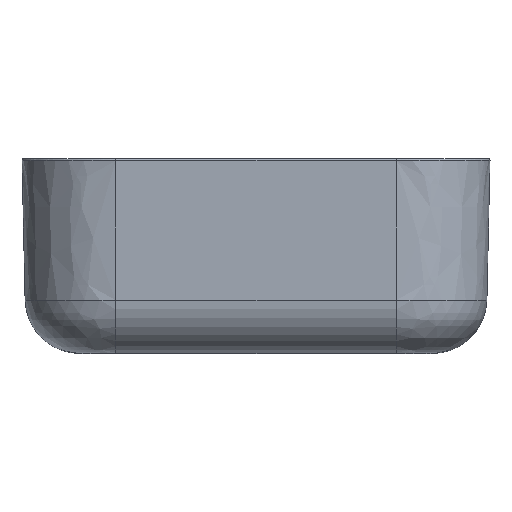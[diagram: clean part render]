
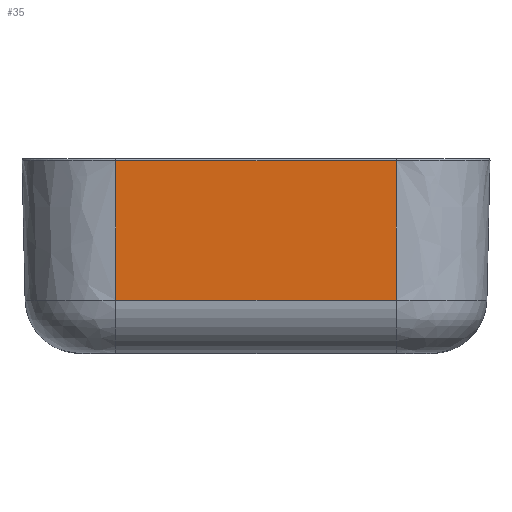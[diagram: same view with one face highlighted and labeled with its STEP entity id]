
A CAD part, left-side view. The second image highlights one B-rep face of the part: STEP entity #35.
In plain terms, the highlighted planar face has unit normal (-1, 0, -0.022).
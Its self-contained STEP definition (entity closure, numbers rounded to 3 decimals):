
#35=ADVANCED_FACE('',(#155),#1738,.T.);
#155=FACE_OUTER_BOUND('',#275,.T.);
#275=EDGE_LOOP('',(#406,#407,#408,#409));
#406=ORIENTED_EDGE('',*,*,#962,.T.);
#407=ORIENTED_EDGE('',*,*,#963,.T.);
#408=ORIENTED_EDGE('',*,*,#964,.F.);
#409=ORIENTED_EDGE('',*,*,#961,.F.);
#961=EDGE_CURVE('',#1541,#1544,#1479,.T.);
#962=EDGE_CURVE('',#1541,#1545,#1290,.T.);
#963=EDGE_CURVE('',#1545,#1546,#1291,.T.);
#964=EDGE_CURVE('',#1544,#1546,#1292,.T.);
#1290=B_SPLINE_CURVE_WITH_KNOTS('',1,(#5237,#5238),.UNSPECIFIED.,.F.,.F.,
(2,2),(2.047,90.897),.UNSPECIFIED.);
#1291=B_SPLINE_CURVE_WITH_KNOTS('',1,(#5239,#5240),.UNSPECIFIED.,.F.,.F.,
(2,2),(0.,180.),.UNSPECIFIED.);
#1292=B_SPLINE_CURVE_WITH_KNOTS('',1,(#5241,#5242),.UNSPECIFIED.,.F.,.F.,
(2,2),(2.047,90.897),.UNSPECIFIED.);
#1479=(
BOUNDED_CURVE()
B_SPLINE_CURVE(1,(#5235,#5236),.UNSPECIFIED.,.F.,.F.)
B_SPLINE_CURVE_WITH_KNOTS((2,2),(0.,180.),.UNSPECIFIED.)
CURVE()
GEOMETRIC_REPRESENTATION_ITEM()
RATIONAL_B_SPLINE_CURVE((1.,1.))
REPRESENTATION_ITEM('')
);
#1541=VERTEX_POINT('',#5163);
#1544=VERTEX_POINT('',#5166);
#1545=VERTEX_POINT('',#5167);
#1546=VERTEX_POINT('',#5168);
#1738=PLANE('',#1921);
#1921=AXIS2_PLACEMENT_3D('',#2148,#2016,$);
#2016=DIRECTION('',(-1.,0.,-0.022));
#2148=CARTESIAN_POINT('',(19824.921,1524.826,-5611.122));
#5163=CARTESIAN_POINT('',(19824.921,1524.826,-5611.122));
#5166=CARTESIAN_POINT('',(19824.921,1344.826,-5611.122));
#5167=CARTESIAN_POINT('',(19826.912,1524.826,-5700.37));
#5168=CARTESIAN_POINT('',(19826.912,1344.826,-5700.37));
#5235=CARTESIAN_POINT('',(19824.921,1524.826,-5611.122));
#5236=CARTESIAN_POINT('',(19824.921,1344.826,-5611.122));
#5237=CARTESIAN_POINT('',(19824.921,1524.826,-5611.122));
#5238=CARTESIAN_POINT('',(19826.912,1524.826,-5700.37));
#5239=CARTESIAN_POINT('',(19826.912,1524.826,-5700.37));
#5240=CARTESIAN_POINT('',(19826.912,1344.826,-5700.37));
#5241=CARTESIAN_POINT('',(19824.921,1344.826,-5611.122));
#5242=CARTESIAN_POINT('',(19826.912,1344.826,-5700.37));
